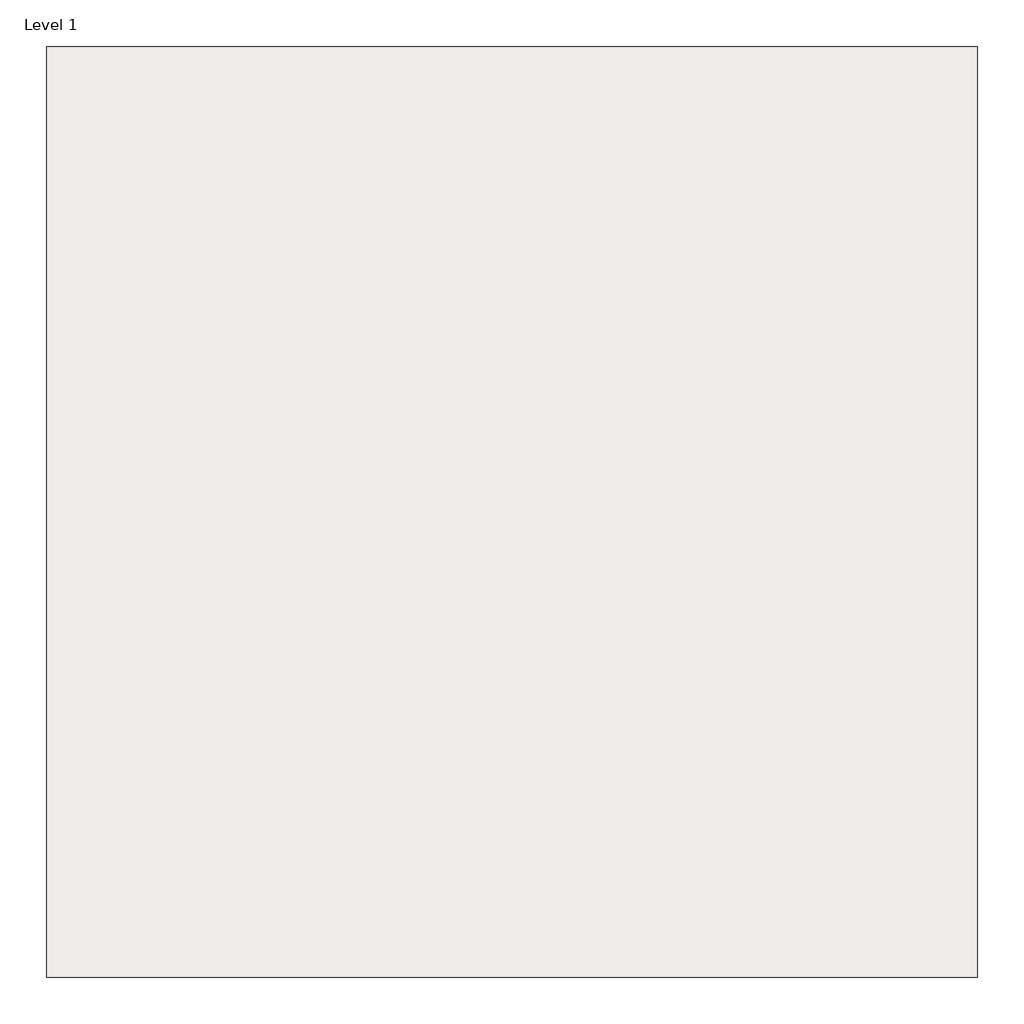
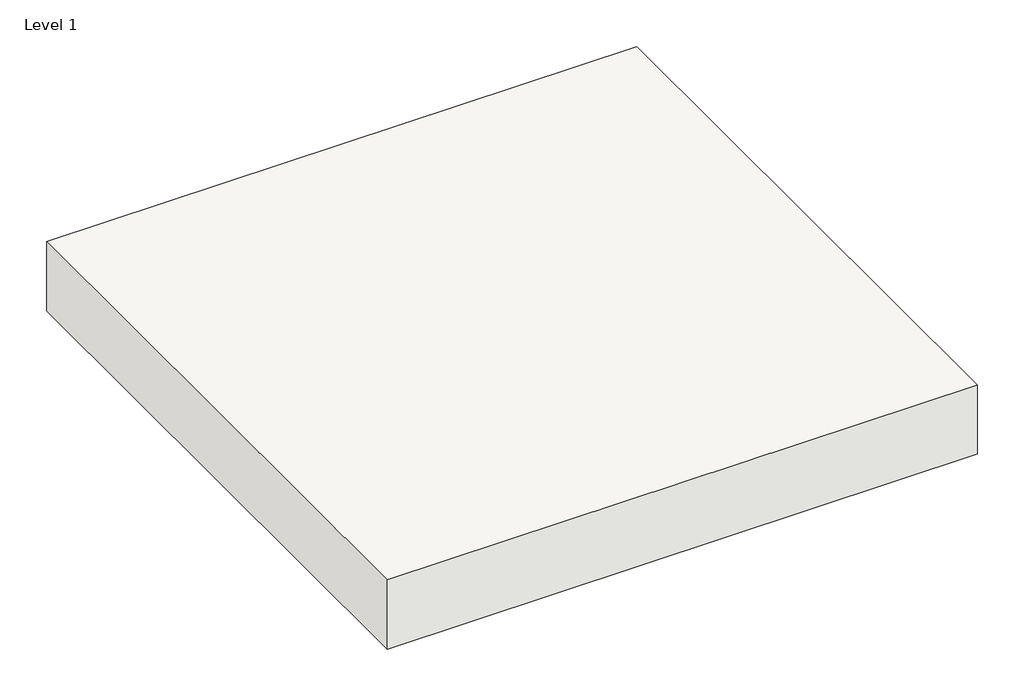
# One storey: 1 slab.
"""IFC4 building model written with IfcOpenShell, lengths in millimetres."""

from ifc_helpers import new_model, si_unit, frame, origin, place, context, project, spatial, polyline, outline, extrude, element, save

model = new_model("IFC4")

# Units and contexts
model_context = context("Model", 3, world=origin())
ifc_project = project(units=[si_unit("LENGTHUNIT", "METRE", prefix="MILLI")], contexts=[model_context])

# Site, building, storey
site = spatial("IfcSite", under=ifc_project)
building = spatial("IfcBuilding", under=site)
storey = spatial("IfcBuildingStorey", under=building, Name="Level 1", Elevation=0.0)

# Slab
placement = place(None, origin())
element("IfcSlab", 1, ObjectType="RIGIPS - 7.51.06 - REI 60 - 58dB", at=placement, inside=storey, context=model_context, shape_type="SweptSolid", body=[
    extrude(outline(polyline([(-1500.0, 1500.0), (1500.0, 1500.0), (1500.0, -1500.0), (-1500.0, -1500.0), (-1500.0, 1500.0)])), frame((0.0, 0.0, -373.0), z_axis=(0.0, 0.0, 1.0), x_axis=(1.0, 0.0, 0.0)), (0.0, 0.0, 1.0), 373.0),
])

save(model, "model.ifc")
